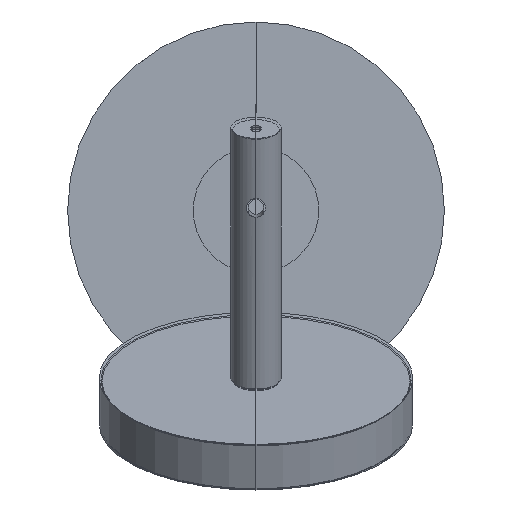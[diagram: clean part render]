
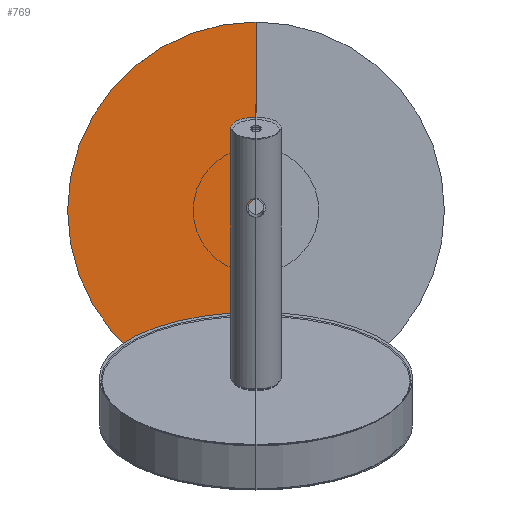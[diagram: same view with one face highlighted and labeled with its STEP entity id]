
A CAD part, top view. The second image highlights one B-rep face of the part: STEP entity #769.
In plain terms, the highlighted planar face has unit normal (0, 0, 1).
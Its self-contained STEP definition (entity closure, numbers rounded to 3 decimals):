
#81=FACE_OUTER_BOUND('',#135,.T.);
#135=EDGE_LOOP('',(#541,#542,#543,#544));
#187=LINE('',#1236,#244);
#188=LINE('',#1239,#245);
#244=VECTOR('',#977,304.8);
#245=VECTOR('',#980,304.8);
#301=CIRCLE('',#835,6.);
#303=CIRCLE('',#839,150.);
#349=VERTEX_POINT('',#1227);
#350=VERTEX_POINT('',#1229);
#351=VERTEX_POINT('',#1235);
#352=VERTEX_POINT('',#1237);
#412=EDGE_CURVE('',#350,#349,#301,.T.);
#415=EDGE_CURVE('',#351,#349,#187,.T.);
#416=EDGE_CURVE('',#352,#351,#303,.T.);
#417=EDGE_CURVE('',#350,#352,#188,.T.);
#541=ORIENTED_EDGE('',*,*,#412,.T.);
#542=ORIENTED_EDGE('',*,*,#415,.F.);
#543=ORIENTED_EDGE('',*,*,#416,.F.);
#544=ORIENTED_EDGE('',*,*,#417,.F.);
#739=PLANE('',#838);
#769=ADVANCED_FACE('',(#81),#739,.T.);
#835=AXIS2_PLACEMENT_3D('',#1230,#968,#969);
#838=AXIS2_PLACEMENT_3D('',#1234,#975,#976);
#839=AXIS2_PLACEMENT_3D('',#1238,#978,#979);
#968=DIRECTION('center_axis',(0.,0.,-1.));
#969=DIRECTION('ref_axis',(0.,1.,0.));
#975=DIRECTION('center_axis',(0.,0.,1.));
#976=DIRECTION('ref_axis',(0.,1.,0.));
#977=DIRECTION('',(0.,1.,0.));
#978=DIRECTION('center_axis',(0.,0.,-1.));
#979=DIRECTION('ref_axis',(0.,1.,0.));
#980=DIRECTION('',(0.,1.,0.));
#1227=CARTESIAN_POINT('',(0.,-6.,14.));
#1229=CARTESIAN_POINT('',(0.,6.,14.));
#1230=CARTESIAN_POINT('Origin',(0.,0.,14.));
#1234=CARTESIAN_POINT('Origin',(0.,0.,14.));
#1235=CARTESIAN_POINT('',(0.,-150.,14.));
#1236=CARTESIAN_POINT('',(0.,-150.,14.));
#1237=CARTESIAN_POINT('',(0.,150.,14.));
#1238=CARTESIAN_POINT('Origin',(0.,0.,14.));
#1239=CARTESIAN_POINT('',(0.,6.,14.));
